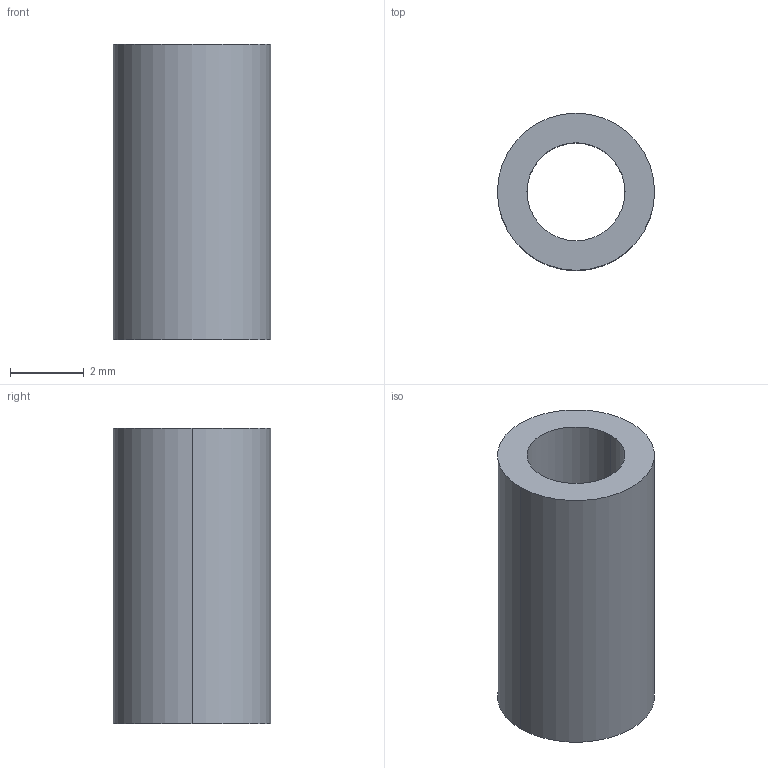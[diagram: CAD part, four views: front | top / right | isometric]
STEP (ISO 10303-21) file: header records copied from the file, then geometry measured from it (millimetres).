
FILE_DESCRIPTION (( 'STEP AP214' ), '1' );
FILE_NAME ('casquet roscat 70.STEP', '2017-11-14T10:12:34', ( 'aaa' ), ( '' ), 'SwSTEP 2.0', 'SolidWorks 2013', '' );
FILE_SCHEMA (( 'AUTOMOTIVE_DESIGN' ));
Length unit declared in the file: millimetre
Products named in the file (1): casquet roscat 70
Bounding box: 4.25 x 4.25 x 8 mm (x, y, z)
Volume: 69.4 mm3; surface area: 190.8 mm2
Topology: 1 solids, 1 shells, 6 faces, 12 edges, 8 vertices
Faces by surface type: cylinder 4, plane 2
Entity records: 202 total; most frequent: DIRECTION 34, CARTESIAN_POINT 27, ORIENTED_EDGE 24, AXIS2_PLACEMENT_3D 15, EDGE_CURVE 12, CIRCLE 8, EDGE_LOOP 8, VERTEX_POINT 8
